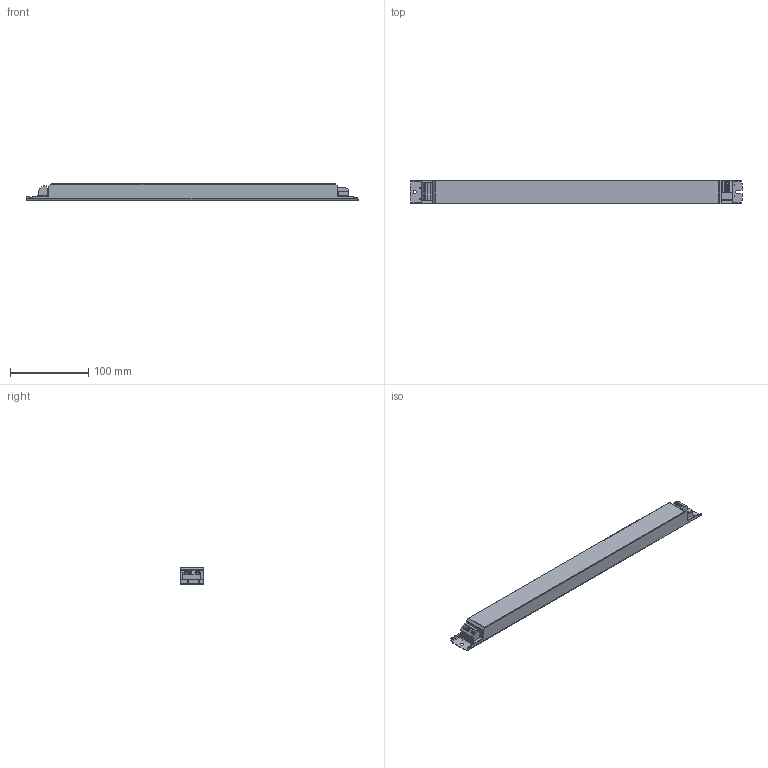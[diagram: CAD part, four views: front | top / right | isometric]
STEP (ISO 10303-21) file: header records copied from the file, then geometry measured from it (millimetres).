
FILE_DESCRIPTION((''),'2;1');
FILE_NAME('15014502Z_DATA-LC48V100W425SELV','2021-04-27T13:42:24',('Juergen.Hrach'),(''),'CREO PARAMETRIC BY PTC INC, 2019164','CREO PARAMETRIC BY PTC INC, 2019164','');
FILE_SCHEMA(('CONFIG_CONTROL_DESIGN'));
Length unit declared in the file: millimetre
Products named in the file (1): 15014502Z_DATA-LC48V100W425SELV
Bounding box: 425 x 30 x 21 mm (x, y, z)
Volume: 241982.4 mm3; surface area: 43781.9 mm2
Topology: 1 solids, 1 shells, 212 faces, 588 edges, 390 vertices
Faces by surface type: plane 115, cylinder 88, bspline 5, extrusion 2, revolution 2
Entity records: 6964 total; most frequent: CARTESIAN_POINT 1367, ORIENTED_EDGE 1176, DIRECTION 1150, EDGE_CURVE 588, VECTOR 390, VERTEX_POINT 390, LINE 388, AXIS2_PLACEMENT_3D 379
